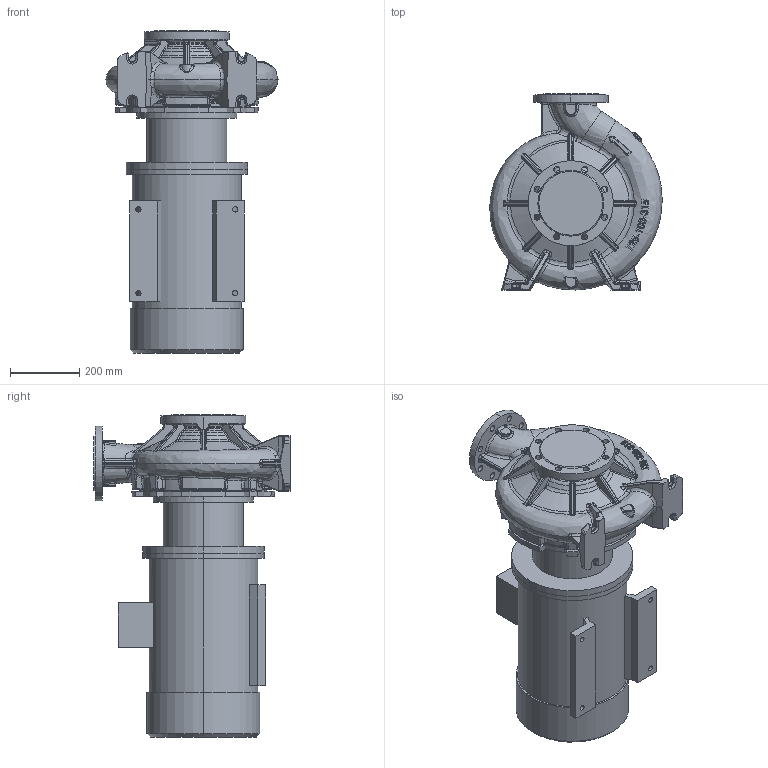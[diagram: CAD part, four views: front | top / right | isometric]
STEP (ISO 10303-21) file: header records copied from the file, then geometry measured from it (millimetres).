
FILE_DESCRIPTION (( 'STEP AP214' ), '1' );
FILE_NAME ('KRM 125-100-314-4-18,5.STEP', '2026-04-20T12:09:57', ( '' ), ( '' ), 'SwSTEP 2.0', 'SolidWorks 2016', '' );
FILE_SCHEMA (( 'AUTOMOTIVE_DESIGN' ));
Length unit declared in the file: millimetre
Products named in the file (1): KRM 125-100-314-4-18,5
Bounding box: 496.82 x 565 x 928.43 mm (x, y, z)
Volume: 83493579.1 mm3; surface area: 2506861.1 mm2
Topology: 12 solids, 12 shells, 1418 faces, 3411 edges, 2018 vertices
Faces by surface type: bspline 657, cylinder 284, plane 269, torus 98, cone 86, sphere 24
Entity records: 109834 total; most frequent: CARTESIAN_POINT 66367, ORIENTED_EDGE 6742, DIRECTION 4493, EDGE_CURVE 3371, VERTEX_POINT 2018, AXIS2_PLACEMENT_3D 1872, EDGE_LOOP 1499, UNCERTAINTY_MEASURE_WITH_UNIT 1432
